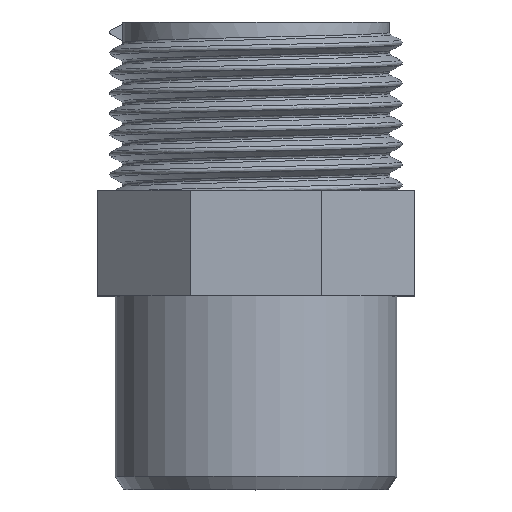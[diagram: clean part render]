
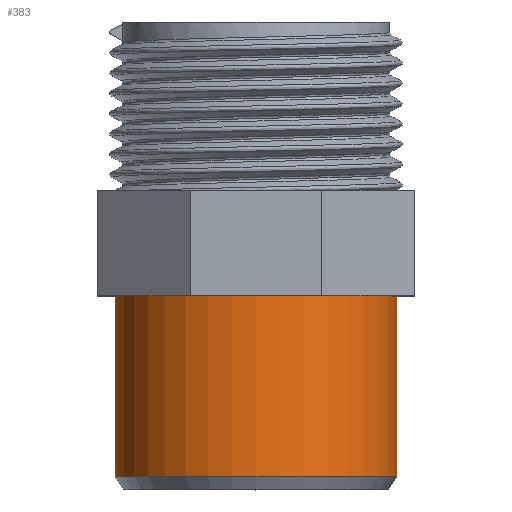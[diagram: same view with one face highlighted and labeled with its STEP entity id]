
A CAD part, top view. The second image highlights one B-rep face of the part: STEP entity #383.
In plain terms, the highlighted cylindrical face has radius 16 mm (diameter 32 mm), a full revolution.
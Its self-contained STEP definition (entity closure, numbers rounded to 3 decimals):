
#100=CYLINDRICAL_SURFACE('',#413,16.);
#106=FACE_BOUND('',#145,.T.);
#117=FACE_OUTER_BOUND('',#144,.T.);
#144=EDGE_LOOP('',(#281));
#145=EDGE_LOOP('',(#282));
#179=CIRCLE('',#411,16.);
#181=CIRCLE('',#414,16.);
#192=VERTEX_POINT('',#543);
#194=VERTEX_POINT('',#548);
#228=EDGE_CURVE('',#192,#192,#179,.T.);
#230=EDGE_CURVE('',#194,#194,#181,.T.);
#281=ORIENTED_EDGE('',*,*,#230,.F.);
#282=ORIENTED_EDGE('',*,*,#228,.F.);
#383=ADVANCED_FACE('',(#117,#106),#100,.T.);
#411=AXIS2_PLACEMENT_3D('',#544,#448,#449);
#413=AXIS2_PLACEMENT_3D('',#547,#452,#453);
#414=AXIS2_PLACEMENT_3D('',#549,#454,#455);
#448=DIRECTION('center_axis',(0.,-1.,0.));
#449=DIRECTION('ref_axis',(-1.,0.,0.));
#452=DIRECTION('center_axis',(0.,-1.,0.));
#453=DIRECTION('ref_axis',(-1.,0.,0.));
#454=DIRECTION('center_axis',(0.,1.,0.));
#455=DIRECTION('ref_axis',(-1.,0.,0.));
#543=CARTESIAN_POINT('',(16.,-26.5,0.));
#544=CARTESIAN_POINT('Origin',(0.,-26.5,0.));
#547=CARTESIAN_POINT('Origin',(0.,-6.,0.));
#548=CARTESIAN_POINT('',(16.,-6.,0.));
#549=CARTESIAN_POINT('Origin',(0.,-6.,0.));
